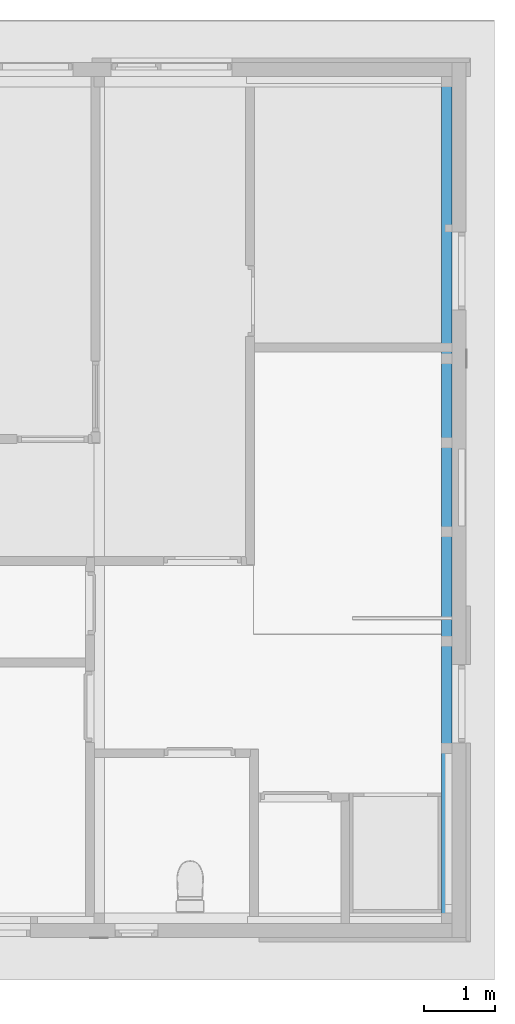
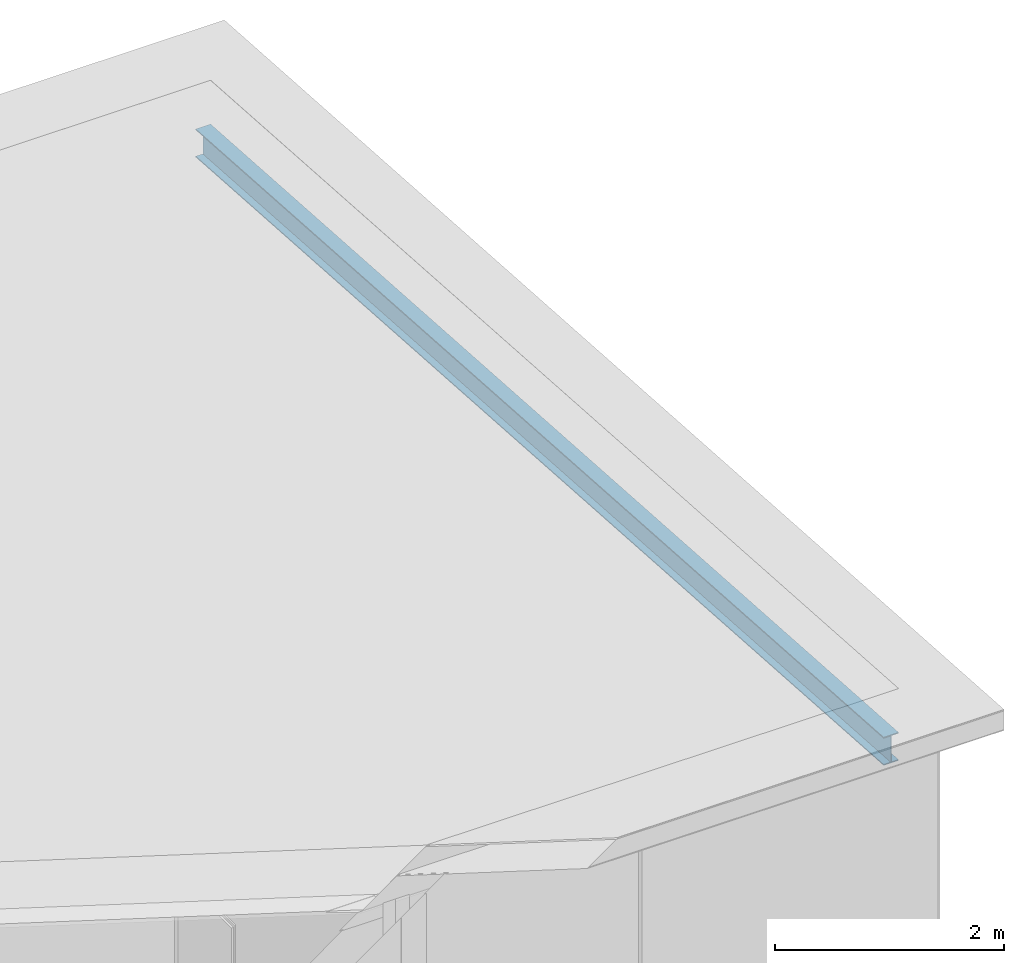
# One storey, part 5 of 37: 1 beam.
"""IFC2X3 building model written with IfcOpenShell, lengths in millimetres."""

from ifc_helpers import new_model, entity, si_unit, converted_unit, frame, origin, place, context, subcontext, project, spatial, faceted_brep, material, element, save


model = new_model("IFC2X3")

# Units and contexts
model_context = context("Model", 3, precision=1e-05, world=origin())
plan_context = context("Plan", 3, precision=1e-05, world=origin())
body_context = subcontext(model_context, "Body", "Model", "MODEL_VIEW")
ifc_project = project(units=[si_unit("LENGTHUNIT", "METRE", prefix="MILLI"), converted_unit("PLANEANGLEUNIT", "DEGREE", entity("IfcPlaneAngleMeasure", 0.0174532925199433), si_unit("PLANEANGLEUNIT", "RADIAN"), dimensions=[0, 0, 0, 0, 0, 0, 0]), si_unit("AREAUNIT", "SQUARE_METRE"), si_unit("VOLUMEUNIT", "CUBIC_METRE")], contexts=[model_context, plan_context])

# Building, storey
building_placement = place(None, origin())
building = spatial("IfcBuilding", under=ifc_project, at=building_placement, Name="HEKF Administrasjonbygg", CompositionType="ELEMENT")
storey_placement = place(building_placement, frame((0.0, 0.0, 9900.0), z_axis=(0.0, 0.0, 1.0), x_axis=(1.0, 0.0, 0.0)))
storey = spatial("IfcBuildingStorey", under=building, at=storey_placement, Name="Plan 2", CompositionType="ELEMENT", Elevation=9900.0)

# Beam
ifc_material = material(Name="Betong i drager")
beam_placement = place(storey_placement, frame((30000.0, -12000.0, 2799.334072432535), z_axis=(0.0, 0.0, 1.0), x_axis=(0.0, 1.0, 0.0)))
element("IfcBeam", 1, at=beam_placement, inside=storey, material=ifc_material, context=body_context, shape_type="Brep", body=[
    faceted_brep([(12000.0, 0.0, 300.6659275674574), (12000.0, 0.0, 289.9421761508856), (0.0, 0.0, 1089.942176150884), (0.0, 0.0, 1100.665927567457), (12000.0, 0.0, 10.72375141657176), (12000.0, 0.0, 0.0), (-1.818989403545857e-12, 0.0, 799.9999999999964), (0.0, 0.0, 810.7237514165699), (12000.0, 150.0, 300.6659275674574), (12000.0, 150.0, 289.9421761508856), (12000.0, 78.54999999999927, 289.9421761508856), (12000.0, 78.54999999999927, 10.72375141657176), (12000.0, 150.0, 10.72375141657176), (12000.0, 150.0, 0.0), (12000.0, 0.0, 0.0), (12000.0, 0.0, 10.72375141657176), (12000.0, 71.45000000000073, 10.72375141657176), (12000.0, 71.45000000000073, 289.9421761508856), (12000.0, 0.0, 289.9421761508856), (12000.0, 0.0, 300.6659275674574), (0.0, 150.0000000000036, 1100.665927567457), (0.0, 149.9999999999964, 1089.942176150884), (12000.0, 150.0, 289.9421761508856), (12000.0, 150.0, 300.6659275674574), (1.818989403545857e-12, 150.0, 810.7237514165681), (0.0, 150.0, 799.9999999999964), (12000.0, 150.0, 0.0), (12000.0, 150.0, 10.72375141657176), (0.0, 0.0, 1100.665927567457), (0.0, 0.0, 1089.942176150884), (1.818989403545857e-12, 71.45000000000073, 1089.942176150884), (1.818989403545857e-12, 71.45000000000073, 810.7237514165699), (0.0, 0.0, 810.7237514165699), (-1.818989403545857e-12, 0.0, 799.9999999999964), (0.0, 150.0, 799.9999999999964), (1.818989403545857e-12, 150.0, 810.7237514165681), (1.818989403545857e-12, 78.54999999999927, 810.7237514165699), (1.818989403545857e-12, 78.54999999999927, 1089.942176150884), (0.0, 149.9999999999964, 1089.942176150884), (0.0, 150.0000000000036, 1100.665927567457), (12000.0, 150.0, 10.72375141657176), (12000.0, 78.54999999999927, 10.72375141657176), (1.818989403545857e-12, 78.54999999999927, 810.7237514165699), (1.818989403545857e-12, 150.0, 810.7237514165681), (12000.0, 78.54999999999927, 10.72375141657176), (12000.0, 78.54999999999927, 289.9421761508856), (1.818989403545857e-12, 78.54999999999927, 1089.942176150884), (1.818989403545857e-12, 78.54999999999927, 810.7237514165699), (12000.0, 78.54999999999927, 289.9421761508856), (12000.0, 150.0, 289.9421761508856), (0.0, 149.9999999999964, 1089.942176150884), (1.818989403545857e-12, 78.54999999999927, 1089.942176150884), (12000.0, 150.0, 300.6659275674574), (12000.0, 0.0, 300.6659275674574), (0.0, 0.0, 1100.665927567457), (0.0, 150.0000000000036, 1100.665927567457), (12000.0, 0.0, 289.9421761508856), (12000.0, 71.45000000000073, 289.9421761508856), (1.818989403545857e-12, 71.45000000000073, 1089.942176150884), (0.0, 0.0, 1089.942176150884), (12000.0, 71.45000000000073, 289.9421761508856), (12000.0, 71.45000000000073, 10.72375141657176), (1.818989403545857e-12, 71.45000000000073, 810.7237514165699), (1.818989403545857e-12, 71.45000000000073, 1089.942176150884), (12000.0, 71.45000000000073, 10.72375141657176), (12000.0, 0.0, 10.72375141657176), (0.0, 0.0, 810.7237514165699), (1.818989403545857e-12, 71.45000000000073, 810.7237514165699), (12000.0, 0.0, 0.0), (12000.0, 150.0, 0.0), (0.0, 150.0, 799.9999999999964), (-1.818989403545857e-12, 0.0, 799.9999999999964)], [[[0, 1, 2, 3]], [[4, 5, 6, 7]], [[8, 9, 10, 11, 12, 13, 14, 15, 16, 17, 18, 19]], [[20, 21, 22, 23]], [[24, 25, 26, 27]], [[28, 29, 30, 31, 32, 33, 34, 35, 36, 37, 38, 39]], [[40, 41, 42, 43]], [[44, 45, 46, 47]], [[48, 49, 50, 51]], [[52, 53, 54, 55]], [[56, 57, 58, 59]], [[60, 61, 62, 63]], [[64, 65, 66, 67]], [[68, 69, 70, 71]]], orient=[[False], [False], [False], [False], [False], [False], [False], [False], [False], [False], [False], [False], [False], [False]]),
])

save(model, "model.ifc")
